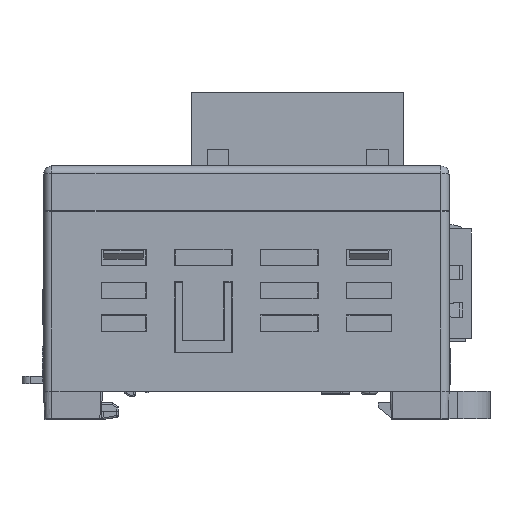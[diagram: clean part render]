
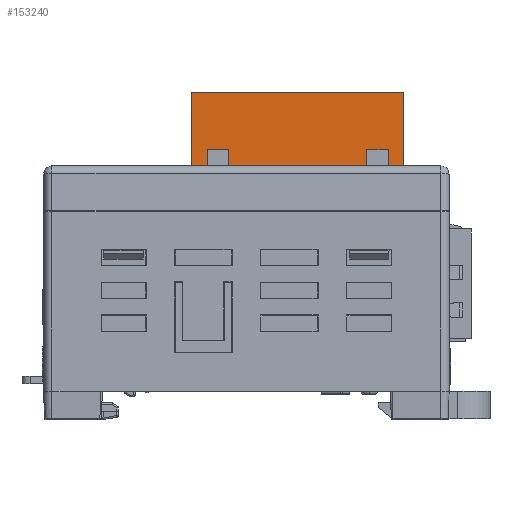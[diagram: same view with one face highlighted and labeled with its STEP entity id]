
A CAD part, left-side view. The second image highlights one B-rep face of the part: STEP entity #153240.
In plain terms, the highlighted planar face has unit normal (-1, 0, 0).
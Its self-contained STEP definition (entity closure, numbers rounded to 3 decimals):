
#119=DIRECTION('',(0.,0.,-1.));
#120=VECTOR('',#119,12.5);
#121=CARTESIAN_POINT('',(7.53,-19.21,40.));
#122=LINE('',#121,#120);
#763=DIRECTION('',(0.,1.,0.));
#764=VECTOR('',#763,1.);
#765=CARTESIAN_POINT('',(7.53,-19.21,27.5));
#766=LINE('',#765,#764);
#779=DIRECTION('',(0.,1.,0.));
#780=VECTOR('',#779,1.);
#781=CARTESIAN_POINT('',(7.53,-13.26,27.5));
#782=LINE('',#781,#780);
#795=DIRECTION('',(0.,1.,0.));
#796=VECTOR('',#795,1.);
#797=CARTESIAN_POINT('',(7.53,-6.76,27.5));
#798=LINE('',#797,#796);
#811=DIRECTION('',(0.,1.,0.));
#812=VECTOR('',#811,1.);
#813=CARTESIAN_POINT('',(7.53,-0.26,27.5));
#814=LINE('',#813,#812);
#827=DIRECTION('',(0.,1.,0.));
#828=VECTOR('',#827,1.);
#829=CARTESIAN_POINT('',(7.53,5.69,27.5));
#830=LINE('',#829,#828);
#42631=DIRECTION('',(0.,-1.,0.));
#42632=VECTOR('',#42631,0.9);
#42633=CARTESIAN_POINT('',(7.53,-17.31,28.));
#42634=LINE('',#42633,#42632);
#42635=DIRECTION('',(0.,-1.,0.));
#42636=VECTOR('',#42635,2.6);
#42637=CARTESIAN_POINT('',(7.53,-14.71,33.));
#42638=LINE('',#42637,#42636);
#42639=DIRECTION('',(0.,0.,1.));
#42640=VECTOR('',#42639,5.);
#42641=CARTESIAN_POINT('',(7.53,-14.71,28.));
#42642=LINE('',#42641,#42640);
#42643=DIRECTION('',(0.,-1.,0.));
#42644=VECTOR('',#42643,1.45);
#42645=CARTESIAN_POINT('',(7.53,-13.26,28.));
#42646=LINE('',#42645,#42644);
#42647=DIRECTION('',(0.,-1.,0.));
#42648=VECTOR('',#42647,5.5);
#42649=CARTESIAN_POINT('',(7.53,-6.76,28.));
#42650=LINE('',#42649,#42648);
#42651=DIRECTION('',(0.,-1.,0.));
#42652=VECTOR('',#42651,5.5);
#42653=CARTESIAN_POINT('',(7.53,-0.26,28.));
#42654=LINE('',#42653,#42652);
#42655=DIRECTION('',(0.,-1.,0.));
#42656=VECTOR('',#42655,1.45);
#42657=CARTESIAN_POINT('',(7.53,2.19,28.));
#42658=LINE('',#42657,#42656);
#42659=DIRECTION('',(0.,-1.,0.));
#42660=VECTOR('',#42659,0.9);
#42661=CARTESIAN_POINT('',(7.53,5.69,28.));
#42662=LINE('',#42661,#42660);
#42671=DIRECTION('',(0.,0.,1.));
#42672=VECTOR('',#42671,0.5);
#42673=CARTESIAN_POINT('',(7.53,-18.21,27.5));
#42674=LINE('',#42673,#42672);
#42683=DIRECTION('',(0.,0.,-1.));
#42684=VECTOR('',#42683,5.);
#42685=CARTESIAN_POINT('',(7.53,-17.31,33.));
#42686=LINE('',#42685,#42684);
#42891=DIRECTION('',(0.,-1.,0.));
#42892=VECTOR('',#42891,25.9);
#42893=CARTESIAN_POINT('',(7.53,6.69,40.));
#42894=LINE('',#42893,#42892);
#42927=DIRECTION('',(0.,0.,1.));
#42928=VECTOR('',#42927,12.5);
#42929=CARTESIAN_POINT('',(7.53,6.69,27.5));
#42930=LINE('',#42929,#42928);
#44677=DIRECTION('',(0.,0.,-1.));
#44678=VECTOR('',#44677,0.5);
#44679=CARTESIAN_POINT('',(7.53,5.69,28.));
#44680=LINE('',#44679,#44678);
#46229=DIRECTION('',(0.,0.,1.));
#46230=VECTOR('',#46229,5.);
#46231=CARTESIAN_POINT('',(7.53,4.79,28.));
#46232=LINE('',#46231,#46230);
#46249=DIRECTION('',(0.,-1.,0.));
#46250=VECTOR('',#46249,2.6);
#46251=CARTESIAN_POINT('',(7.53,4.79,33.));
#46252=LINE('',#46251,#46250);
#46257=DIRECTION('',(0.,0.,-1.));
#46258=VECTOR('',#46257,5.);
#46259=CARTESIAN_POINT('',(7.53,2.19,33.));
#46260=LINE('',#46259,#46258);
#48369=DIRECTION('',(0.,0.,-1.));
#48370=VECTOR('',#48369,0.5);
#48371=CARTESIAN_POINT('',(7.53,-13.26,28.));
#48372=LINE('',#48371,#48370);
#48393=DIRECTION('',(0.,0.,1.));
#48394=VECTOR('',#48393,0.5);
#48395=CARTESIAN_POINT('',(7.53,-12.26,27.5));
#48396=LINE('',#48395,#48394);
#48397=DIRECTION('',(0.,0.,-1.));
#48398=VECTOR('',#48397,0.5);
#48399=CARTESIAN_POINT('',(7.53,-6.76,28.));
#48400=LINE('',#48399,#48398);
#48421=DIRECTION('',(0.,0.,1.));
#48422=VECTOR('',#48421,0.5);
#48423=CARTESIAN_POINT('',(7.53,-5.76,27.5));
#48424=LINE('',#48423,#48422);
#48425=DIRECTION('',(0.,0.,-1.));
#48426=VECTOR('',#48425,0.5);
#48427=CARTESIAN_POINT('',(7.53,-0.26,28.));
#48428=LINE('',#48427,#48426);
#48449=DIRECTION('',(0.,0.,1.));
#48450=VECTOR('',#48449,0.5);
#48451=CARTESIAN_POINT('',(7.53,0.74,27.5));
#48452=LINE('',#48451,#48450);
#57961=CARTESIAN_POINT('',(7.53,-14.71,28.));
#57963=VERTEX_POINT('',#57961);
#57966=CARTESIAN_POINT('',(7.53,-17.31,28.));
#57967=VERTEX_POINT('',#57966);
#57968=CARTESIAN_POINT('',(7.53,-18.21,28.));
#57969=VERTEX_POINT('',#57968);
#58046=CARTESIAN_POINT('',(7.53,5.69,28.));
#58047=VERTEX_POINT('',#58046);
#58048=CARTESIAN_POINT('',(7.53,4.79,28.));
#58049=VERTEX_POINT('',#58048);
#58054=CARTESIAN_POINT('',(7.53,2.19,28.));
#58055=VERTEX_POINT('',#58054);
#58056=CARTESIAN_POINT('',(7.53,0.74,28.));
#58057=VERTEX_POINT('',#58056);
#58062=CARTESIAN_POINT('',(7.53,-0.26,28.));
#58063=VERTEX_POINT('',#58062);
#58064=CARTESIAN_POINT('',(7.53,-5.76,28.));
#58065=VERTEX_POINT('',#58064);
#58070=CARTESIAN_POINT('',(7.53,-6.76,28.));
#58071=VERTEX_POINT('',#58070);
#58072=CARTESIAN_POINT('',(7.53,-12.26,28.));
#58073=VERTEX_POINT('',#58072);
#58078=CARTESIAN_POINT('',(7.53,-13.26,28.));
#58079=VERTEX_POINT('',#58078);
#59082=CARTESIAN_POINT('',(7.53,-17.31,33.));
#59083=VERTEX_POINT('',#59082);
#59084=CARTESIAN_POINT('',(7.53,-14.71,33.));
#59085=VERTEX_POINT('',#59084);
#59086=CARTESIAN_POINT('',(7.53,2.19,33.));
#59087=VERTEX_POINT('',#59086);
#59088=CARTESIAN_POINT('',(7.53,4.79,33.));
#59089=VERTEX_POINT('',#59088);
#59090=CARTESIAN_POINT('',(7.53,6.69,40.));
#59091=CARTESIAN_POINT('',(7.53,-19.21,40.));
#59092=VERTEX_POINT('',#59090);
#59093=VERTEX_POINT('',#59091);
#66240=CARTESIAN_POINT('',(7.53,-19.21,27.5));
#66241=CARTESIAN_POINT('',(7.53,-18.21,27.5));
#66242=VERTEX_POINT('',#66240);
#66243=VERTEX_POINT('',#66241);
#66244=CARTESIAN_POINT('',(7.53,-13.26,27.5));
#66245=CARTESIAN_POINT('',(7.53,-12.26,27.5));
#66246=VERTEX_POINT('',#66244);
#66247=VERTEX_POINT('',#66245);
#66248=CARTESIAN_POINT('',(7.53,-6.76,27.5));
#66249=CARTESIAN_POINT('',(7.53,-5.76,27.5));
#66250=VERTEX_POINT('',#66248);
#66251=VERTEX_POINT('',#66249);
#66252=CARTESIAN_POINT('',(7.53,-0.26,27.5));
#66253=CARTESIAN_POINT('',(7.53,0.74,27.5));
#66254=VERTEX_POINT('',#66252);
#66255=VERTEX_POINT('',#66253);
#66256=CARTESIAN_POINT('',(7.53,5.69,27.5));
#66257=CARTESIAN_POINT('',(7.53,6.69,27.5));
#66258=VERTEX_POINT('',#66256);
#66259=VERTEX_POINT('',#66257);
#153190=CARTESIAN_POINT('',(7.53,-6.26,33.5));
#153191=DIRECTION('',(1.,0.,0.));
#153192=DIRECTION('',(0.,0.,-1.));
#153193=AXIS2_PLACEMENT_3D('',#153190,#153191,#153192);
#153194=PLANE('',#153193);
#153195=ORIENTED_EDGE('',*,*,#67008,.T.);
#153197=ORIENTED_EDGE('',*,*,#153196,.T.);
#153198=ORIENTED_EDGE('',*,*,#152522,.F.);
#153200=ORIENTED_EDGE('',*,*,#153199,.F.);
#153202=ORIENTED_EDGE('',*,*,#153201,.F.);
#153203=ORIENTED_EDGE('',*,*,#153172,.F.);
#153204=ORIENTED_EDGE('',*,*,#152633,.F.);
#153206=ORIENTED_EDGE('',*,*,#153205,.T.);
#153207=ORIENTED_EDGE('',*,*,#67017,.T.);
#153209=ORIENTED_EDGE('',*,*,#153208,.T.);
#153210=ORIENTED_EDGE('',*,*,#152625,.F.);
#153212=ORIENTED_EDGE('',*,*,#153211,.T.);
#153213=ORIENTED_EDGE('',*,*,#67027,.T.);
#153215=ORIENTED_EDGE('',*,*,#153214,.T.);
#153216=ORIENTED_EDGE('',*,*,#152617,.F.);
#153218=ORIENTED_EDGE('',*,*,#153217,.T.);
#153219=ORIENTED_EDGE('',*,*,#67037,.T.);
#153221=ORIENTED_EDGE('',*,*,#153220,.T.);
#153222=ORIENTED_EDGE('',*,*,#152609,.F.);
#153224=ORIENTED_EDGE('',*,*,#153223,.F.);
#153226=ORIENTED_EDGE('',*,*,#153225,.F.);
#153228=ORIENTED_EDGE('',*,*,#153227,.F.);
#153229=ORIENTED_EDGE('',*,*,#152601,.F.);
#153231=ORIENTED_EDGE('',*,*,#153230,.T.);
#153232=ORIENTED_EDGE('',*,*,#67047,.T.);
#153234=ORIENTED_EDGE('',*,*,#153233,.T.);
#153236=ORIENTED_EDGE('',*,*,#153235,.T.);
#153237=ORIENTED_EDGE('',*,*,#66626,.T.);
#153238=EDGE_LOOP('',(#153195,#153197,#153198,#153200,#153202,#153203,#153204,
#153206,#153207,#153209,#153210,#153212,#153213,#153215,#153216,#153218,#153219,
#153221,#153222,#153224,#153226,#153228,#153229,#153231,#153232,#153234,#153236,
#153237));
#153239=FACE_OUTER_BOUND('',#153238,.F.);
#153240=ADVANCED_FACE('',(#153239),#153194,.F.);
#66626=EDGE_CURVE('',#59093,#66242,#122,.T.);
#67008=EDGE_CURVE('',#66242,#66243,#766,.T.);
#67017=EDGE_CURVE('',#66246,#66247,#782,.T.);
#67027=EDGE_CURVE('',#66250,#66251,#798,.T.);
#67037=EDGE_CURVE('',#66254,#66255,#814,.T.);
#67047=EDGE_CURVE('',#66258,#66259,#830,.T.);
#152522=EDGE_CURVE('',#57967,#57969,#42634,.T.);
#152601=EDGE_CURVE('',#58047,#58049,#42662,.T.);
#152609=EDGE_CURVE('',#58055,#58057,#42658,.T.);
#152617=EDGE_CURVE('',#58063,#58065,#42654,.T.);
#152625=EDGE_CURVE('',#58071,#58073,#42650,.T.);
#152633=EDGE_CURVE('',#58079,#57963,#42646,.T.);
#153172=EDGE_CURVE('',#57963,#59085,#42642,.T.);
#153196=EDGE_CURVE('',#66243,#57969,#42674,.T.);
#153199=EDGE_CURVE('',#59083,#57967,#42686,.T.);
#153201=EDGE_CURVE('',#59085,#59083,#42638,.T.);
#153205=EDGE_CURVE('',#58079,#66246,#48372,.T.);
#153208=EDGE_CURVE('',#66247,#58073,#48396,.T.);
#153211=EDGE_CURVE('',#58071,#66250,#48400,.T.);
#153214=EDGE_CURVE('',#66251,#58065,#48424,.T.);
#153217=EDGE_CURVE('',#58063,#66254,#48428,.T.);
#153220=EDGE_CURVE('',#66255,#58057,#48452,.T.);
#153223=EDGE_CURVE('',#59087,#58055,#46260,.T.);
#153225=EDGE_CURVE('',#59089,#59087,#46252,.T.);
#153227=EDGE_CURVE('',#58049,#59089,#46232,.T.);
#153230=EDGE_CURVE('',#58047,#66258,#44680,.T.);
#153233=EDGE_CURVE('',#66259,#59092,#42930,.T.);
#153235=EDGE_CURVE('',#59092,#59093,#42894,.T.);
